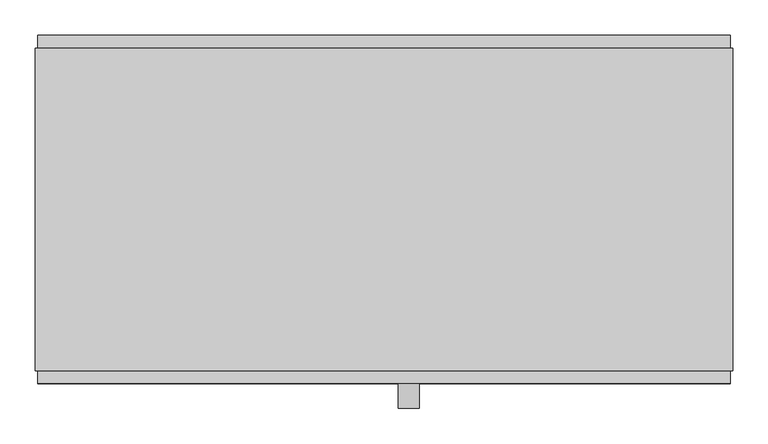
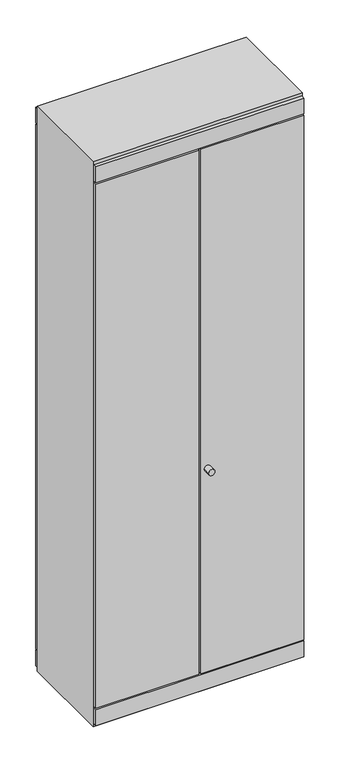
"""IFC4 building model written with IfcOpenShell, lengths in millimetres: furniture geometry, Apex - 2 DOOR - FC OR CAPPED : 2 DOOR - F/C OR CAPPED 1000mm(w) x 490mm(d)."""

from ifc_helpers import new_model, si_unit, point, frame, frame_2d, origin, place, context, project, spatial, polyline, circle_curve, trimmed, segment, composite_curve, outline, extrude, source, transform, mapped, element, save


def furniture_85e88d5e(model_context):
    return source(origin(), model_context, "Body", "SweptSolid", [
        extrude(outline(composite_curve([segment(trimmed(circle_curve(frame_2d((1108.0, 526.0)), 15.0), [point((1108.0, 511.0))], [point((1108.0, 541.0))], False, "CARTESIAN"), True, "CONTINUOUS"), segment(trimmed(circle_curve(frame_2d((1108.0, 526.0)), 15.0), [point((1108.0, 541.0))], [point((1108.0, 511.0))], False, "CARTESIAN"), True, "CONTINUOUS")], self_intersect=False)), frame((0.0, -525.0, 0.0), z_axis=(0.0, 1.0, 0.0), x_axis=(0.0, 0.0, 1.0)), (0.0, 0.0, 1.0), 35.0),
        extrude(outline(polyline([(2800.0, 982.0), (2800.0, 0.0), (0.0, 0.0), (0.0, 982.0), (2800.0, 982.0)]), holes=[polyline([(115.0, 973.0), (115.0, 9.0), (2685.2991236, 9.0), (2685.2991236, 973.0), (115.0, 973.0)])]), frame((0.0, -472.0, 0.0), z_axis=(0.0, 1.0, 0.0), x_axis=(0.0, 0.0, 1.0)), (0.0, 0.0, 1.0), 454.0),
        extrude(outline(polyline([(486.0, -472.0), (486.0, -490.0), (3.0, -490.0), (3.0, -472.0), (486.0, -472.0)])), frame((0.0, 0.0, 100.0), z_axis=(0.0, 0.0, 1.0), x_axis=(1.0, 0.0, 0.0)), (0.0, 0.0, 1.0), 2600.0),
        extrude(outline(polyline([(979.0, -490.0), (496.0, -490.0), (496.0, -472.0), (979.0, -472.0), (979.0, -490.0)])), frame((0.0, 0.0, 100.0), z_axis=(0.0, 0.0, 1.0), x_axis=(1.0, 0.0, 0.0)), (0.0, 0.0, 1.0), 2600.0),
        extrude(outline(polyline([(979.0, 0.0), (979.0, -18.0), (3.0, -18.0), (3.0, 0.0), (979.0, 0.0)])), frame((0.0, 0.0, 100.0), z_axis=(0.0, 0.0, 1.0), x_axis=(1.0, 0.0, 0.0)), (0.0, 0.0, 1.0), 2600.0),
        extrude(outline(polyline([(979.0, -18.0), (3.0, -18.0), (3.0, 0.0), (979.0, 0.0), (979.0, -18.0)])), frame((0.0, 0.0, 2706.0), z_axis=(0.0, 0.0, 1.0), x_axis=(1.0, 0.0, 0.0)), (0.0, 0.0, 1.0), 79.0),
        extrude(outline(polyline([(979.0, -18.0), (3.0, -18.0), (3.0, 0.0), (979.0, 0.0), (979.0, -18.0)])), frame((0.0, 0.0, 15.0), z_axis=(0.0, 0.0, 1.0), x_axis=(1.0, 0.0, 0.0)), (0.0, 0.0, 1.0), 79.0),
        extrude(outline(polyline([(979.0, -490.0), (3.0, -490.0), (3.0, -472.0), (979.0, -472.0), (979.0, -490.0)])), frame((0.0, 0.0, 2706.0), z_axis=(0.0, 0.0, 1.0), x_axis=(1.0, 0.0, 0.0)), (0.0, 0.0, 1.0), 79.0),
        extrude(outline(polyline([(979.0, -490.0), (3.0, -490.0), (3.0, -472.0), (979.0, -472.0), (979.0, -490.0)])), frame((0.0, 0.0, 15.0), z_axis=(0.0, 0.0, 1.0), x_axis=(1.0, 0.0, 0.0)), (0.0, 0.0, 1.0), 79.0),
    ])


if __name__ == "__main__":
    model = new_model("IFC4")
    model_context = context("Model", 3, world=origin())
    ifc_project = project(units=[si_unit("LENGTHUNIT", "METRE", prefix="MILLI")], contexts=[model_context])
    site = spatial("IfcSite", under=ifc_project)
    building = spatial("IfcBuilding", under=site)
    placement = place(None, origin())
    furniture_shape = furniture_85e88d5e(model_context)
    element("IfcFurniture", 1, ObjectType="Apex - 2 DOOR - FC OR CAPPED : 2 DOOR - F/C OR CAPPED 1000mm(w) x 490mm(d)", at=placement, inside=building, context=model_context, shape_type="MappedRepresentation", body=[
        mapped(furniture_shape, transform((0.0, 0.0, 0.0), x_axis=(1.0, 0.0, 0.0), y_axis=(0.0, 1.0, 0.0), z_axis=(0.0, 0.0, 1.0))),
    ])
    save(model, "model.ifc")
